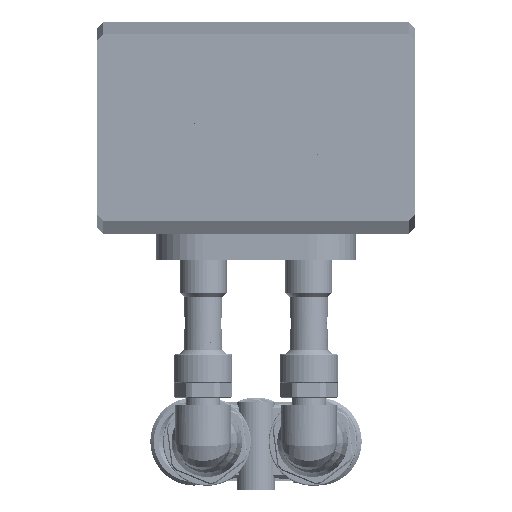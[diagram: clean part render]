
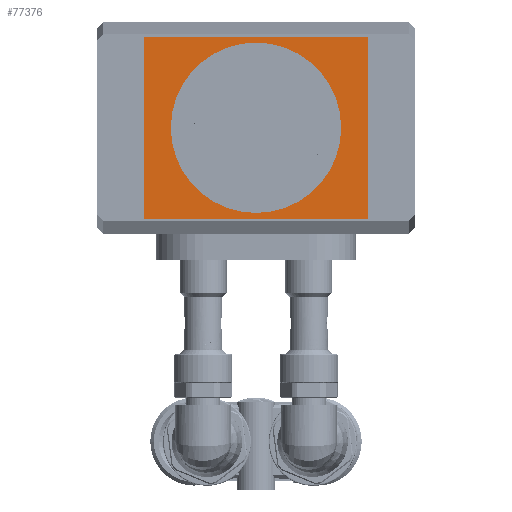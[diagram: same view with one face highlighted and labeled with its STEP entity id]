
A CAD part, front view. The second image highlights one B-rep face of the part: STEP entity #77376.
In plain terms, the highlighted planar face has unit normal (0, -1, 0).
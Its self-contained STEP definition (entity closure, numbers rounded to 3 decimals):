
#407 = CARTESIAN_POINT ( 'NONE',  ( -27., 0., 15.5 ) ) ;
#1682 = DIRECTION ( 'NONE',  ( 0., -1., 0. ) ) ;
#3246 = DIRECTION ( 'NONE',  ( -1., 0., 0. ) ) ;
#3745 = VERTEX_POINT ( 'NONE', #12612 ) ;
#7864 = ORIENTED_EDGE ( 'NONE', *, *, #118792, .F. ) ;
#10185 = EDGE_CURVE ( 'NONE', #43852, #128165, #113982, .T. ) ;
#11969 = CARTESIAN_POINT ( 'NONE',  ( 0., 0., 0. ) ) ;
#12612 = CARTESIAN_POINT ( 'NONE',  ( 19., 0., -15.5 ) ) ;
#15585 = FACE_OUTER_BOUND ( 'NONE', #118059, .T. ) ;
#15601 = EDGE_LOOP ( 'NONE', ( #16266, #48821 ) ) ;
#16266 = ORIENTED_EDGE ( 'NONE', *, *, #10185, .F. ) ;
#18766 = CARTESIAN_POINT ( 'NONE',  ( -19., 0., 15.5 ) ) ;
#22187 = CARTESIAN_POINT ( 'NONE',  ( 0., 0., -14.5 ) ) ;
#22906 = EDGE_CURVE ( 'NONE', #3745, #55863, #78487, .T. ) ;
#25294 = CARTESIAN_POINT ( 'NONE',  ( 0., 0., 0. ) ) ;
#34428 = VECTOR ( 'NONE', #103354, 1000. ) ;
#40967 = VERTEX_POINT ( 'NONE', #66492 ) ;
#41272 = EDGE_CURVE ( 'NONE', #55863, #72892, #125103, .T. ) ;
#41729 = EDGE_CURVE ( 'NONE', #40967, #3745, #61161, .T. ) ;
#42538 = DIRECTION ( 'NONE',  ( 1., 0., 0. ) ) ;
#43048 = DIRECTION ( 'NONE',  ( 0., -1., 0. ) ) ;
#43852 = VERTEX_POINT ( 'NONE', #22187 ) ;
#45196 = CARTESIAN_POINT ( 'NONE',  ( 0., 0., 0. ) ) ;
#45616 = VECTOR ( 'NONE', #42538, 1000. ) ;
#47390 = FACE_BOUND ( 'NONE', #15601, .T. ) ;
#48821 = ORIENTED_EDGE ( 'NONE', *, *, #127638, .F. ) ;
#55374 = AXIS2_PLACEMENT_3D ( 'NONE', #25294, #57678, #130284 ) ;
#55863 = VERTEX_POINT ( 'NONE', #135842 ) ;
#56858 = DIRECTION ( 'NONE',  ( 0., 0., -1. ) ) ;
#57678 = DIRECTION ( 'NONE',  ( 0., 1., 0. ) ) ;
#61161 = LINE ( 'NONE', #92940, #34428 ) ;
#62233 = DIRECTION ( 'NONE',  ( 0., 0., 1. ) ) ;
#63591 = ORIENTED_EDGE ( 'NONE', *, *, #41729, .F. ) ;
#66492 = CARTESIAN_POINT ( 'NONE',  ( 19., 0., 15.5 ) ) ;
#71274 = ORIENTED_EDGE ( 'NONE', *, *, #41272, .F. ) ;
#71940 = AXIS2_PLACEMENT_3D ( 'NONE', #11969, #43048, #74123 ) ;
#72044 = AXIS2_PLACEMENT_3D ( 'NONE', #45196, #1682, #56858 ) ;
#72892 = VERTEX_POINT ( 'NONE', #126317 ) ;
#74123 = DIRECTION ( 'NONE',  ( 0., 0., -1. ) ) ;
#77376 = ADVANCED_FACE ( 'NONE', ( #47390, #15585 ), #99880, .F. ) ;
#78487 = LINE ( 'NONE', #120631, #99558 ) ;
#78961 = ORIENTED_EDGE ( 'NONE', *, *, #22906, .F. ) ;
#85128 = CIRCLE ( 'NONE', #71940, 14.5 ) ;
#92940 = CARTESIAN_POINT ( 'NONE',  ( 19., 0., 15.5 ) ) ;
#99558 = VECTOR ( 'NONE', #3246, 1000. ) ;
#99880 = PLANE ( 'NONE',  #55374 ) ;
#102828 = VECTOR ( 'NONE', #62233, 1000. ) ;
#103354 = DIRECTION ( 'NONE',  ( 0., 0., -1. ) ) ;
#105461 = LINE ( 'NONE', #407, #45616 ) ;
#113982 = CIRCLE ( 'NONE', #72044, 14.5 ) ;
#118059 = EDGE_LOOP ( 'NONE', ( #78961, #63591, #7864, #71274 ) ) ;
#118792 = EDGE_CURVE ( 'NONE', #72892, #40967, #105461, .T. ) ;
#120631 = CARTESIAN_POINT ( 'NONE',  ( -27., 0., -15.5 ) ) ;
#123600 = CARTESIAN_POINT ( 'NONE',  ( 0., 0., 14.5 ) ) ;
#125103 = LINE ( 'NONE', #18766, #102828 ) ;
#126317 = CARTESIAN_POINT ( 'NONE',  ( -19., 0., 15.5 ) ) ;
#127638 = EDGE_CURVE ( 'NONE', #128165, #43852, #85128, .T. ) ;
#128165 = VERTEX_POINT ( 'NONE', #123600 ) ;
#130284 = DIRECTION ( 'NONE',  ( 0., 0., 1. ) ) ;
#135842 = CARTESIAN_POINT ( 'NONE',  ( -19., 0., -15.5 ) ) ;
